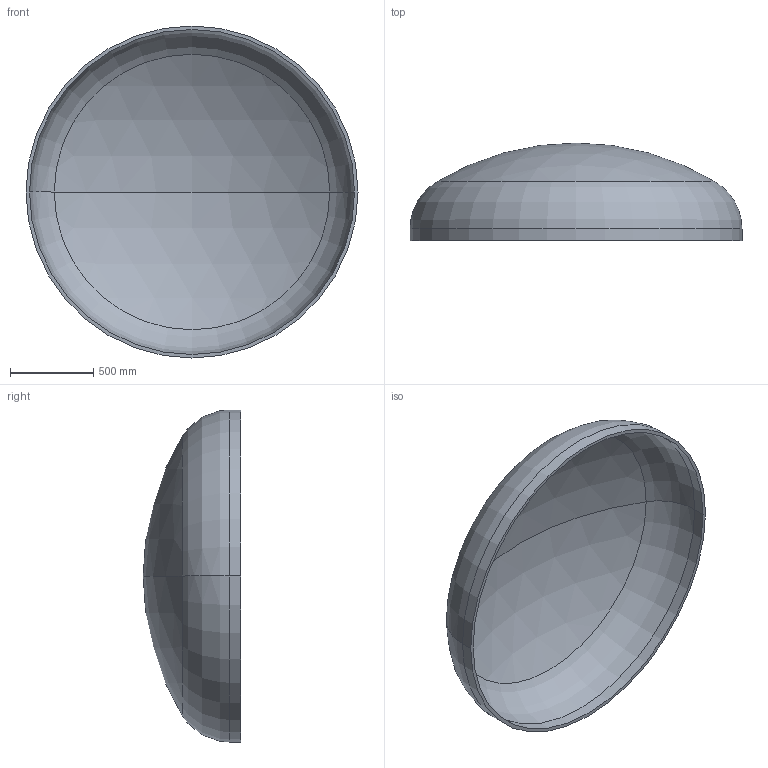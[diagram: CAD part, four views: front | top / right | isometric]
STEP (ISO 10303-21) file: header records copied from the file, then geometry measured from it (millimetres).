
FILE_DESCRIPTION (( 'STEP AP203' ), '1' );
FILE_NAME ('DIN 28013 Korbbogenform_-_Boden DIN 28013 - 2000 x 70 - I - s=21.step', '2016-07-01T13:41:42', ( '' ), ( '' ), 'SwSTEP 2.0', 'SolidWorks 2013', '' );
FILE_SCHEMA (( 'CONFIG_CONTROL_DESIGN' ));
Length unit declared in the file: millimetre
Products named in the file (1): DIN 28013 Korbbogenform_-_Boden DIN 28013 - 2000 x 70 - I - s=21
Bounding box: 2000 x 588.03 x 2000 mm (x, y, z)
Volume: 99366399.3 mm3; surface area: 9594948.3 mm2
Topology: 1 solids, 1 shells, 13 faces, 24 edges, 14 vertices
Faces by surface type: torus 4, cylinder 4, sphere 4, plane 1
Entity records: 407 total; most frequent: DIRECTION 72, CARTESIAN_POINT 52, ORIENTED_EDGE 48, AXIS2_PLACEMENT_3D 34, EDGE_CURVE 24, CIRCLE 20, EDGE_LOOP 14, VERTEX_POINT 14
